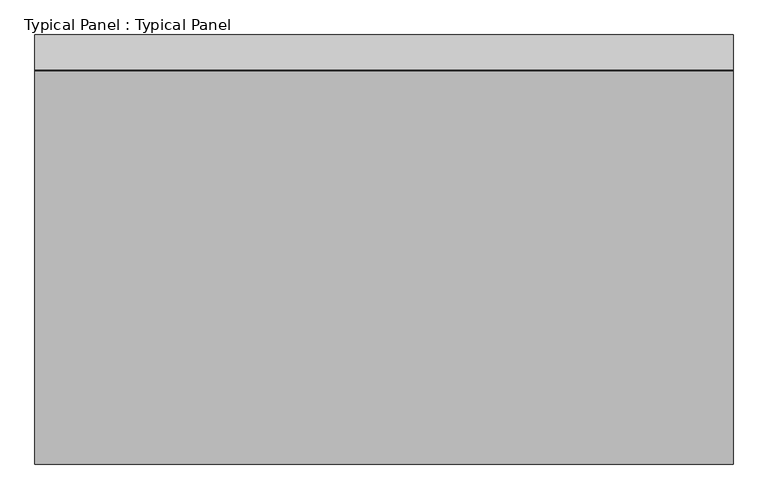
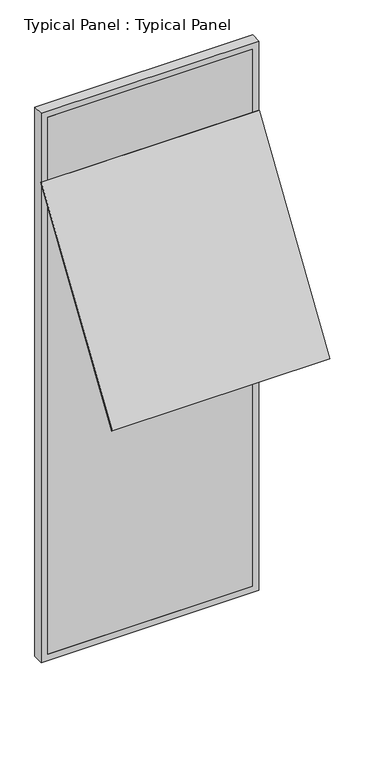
"""IFC4 building model written with IfcOpenShell, lengths in millimetres: plate geometry, Typical Panel : Typical Panel."""

import ifcopenshell
import ifcopenshell.guid

model = None  # the IFC model being written
_history = None  # IfcOwnerHistory: only IFC2X3 demands one
_inside = {}  # id of a spatial element -> (the spatial element, [elements in it])
_under = {}  # id of a project, library or spatial element -> (it, [spatial elements below it])
_declared = {}  # id of a project -> (the project, [libraries it declares])
_typed = {}  # id of a type object -> (the type object, [elements of that type])
_made_of = {}  # id of a material, layer set ... -> (it, [elements and type objects made of it])


def new_model(schema):
    """Start an empty IFC model of exactly this schema.

    Asked for "IFC4X3", IfcOpenShell would pick the latest addendum, in which some entities
    have other attributes; the version numbers below select the first issue.
    IFC2X3 requires an IfcOwnerHistory on every rooted entity: one is made here for all.
    """
    global model, _history
    if schema == "IFC4X3":
        model = ifcopenshell.file(schema_version=(4, 3, 0, 0))
    else:
        model = ifcopenshell.file(schema=schema)
    _inside.clear()
    _under.clear()
    _declared.clear()
    _typed.clear()
    _made_of.clear()
    _history = None
    if model.schema == "IFC2X3":
        org = make("IfcOrganization", Name="unknown")
        user = make(
            "IfcPersonAndOrganization",
            ThePerson=make("IfcPerson", FamilyName="unknown"),
            TheOrganization=org,
        )
        app = make(
            "IfcApplication",
            ApplicationDeveloper=org,
            Version="unknown",
            ApplicationFullName="unknown",
            ApplicationIdentifier="unknown",
        )
        _history = make(
            "IfcOwnerHistory",
            OwningUser=user,
            OwningApplication=app,
            ChangeAction="ADDED",
            CreationDate=0,
        )
    return model


def make(cls, **values):
    """One entity of the class cls with the attributes given. An attribute that is None is left unset."""
    return model.create_entity(
        cls, **{name: value for name, value in values.items() if value is not None}
    )


def rooted(cls, **values):
    """An entity with a GlobalId (a new one), such as an element, a storey or a relation."""
    return make(cls, GlobalId=ifcopenshell.guid.new(), OwnerHistory=_history, **values)


def si_unit(unit_type, name, prefix=None):
    """IfcSIUnit, for example si_unit("LENGTHUNIT", "METRE", prefix="MILLI")."""
    return make("IfcSIUnit", UnitType=unit_type, Prefix=prefix, Name=name)


def assignment(units):
    """IfcUnitAssignment: the units of a project."""
    return None if units is None else make("IfcUnitAssignment", Units=units)


def point(xyz):
    """IfcCartesianPoint."""
    return None if xyz is None else make("IfcCartesianPoint", Coordinates=xyz)


def direction(xyz):
    """IfcDirection."""
    return None if xyz is None else make("IfcDirection", DirectionRatios=xyz)


def frame(location, z_axis=None, x_axis=None):
    """IfcAxis2Placement3D, a coordinate frame: its origin and axes. An axis left out is left unset."""
    return make(
        "IfcAxis2Placement3D",
        Location=point(location),
        Axis=direction(z_axis),
        RefDirection=direction(x_axis),
    )


def origin():
    """The frame at (0, 0, 0) with its axes left unset."""
    return frame((0.0, 0.0, 0.0))


def place(relative_to, where):
    """IfcLocalPlacement: puts the frame where relative to a parent placement (None: the world)."""
    return make(
        "IfcLocalPlacement", PlacementRelTo=relative_to, RelativePlacement=where
    )


def context(
    kind, dimensions, precision=None, world=None, true_north=None, identifier=None
):
    """IfcGeometricRepresentationContext, for example the 3D "Model" context."""
    return make(
        "IfcGeometricRepresentationContext",
        ContextIdentifier=identifier,
        ContextType=kind,
        CoordinateSpaceDimension=dimensions,
        Precision=precision,
        WorldCoordinateSystem=world,
        TrueNorth=true_north,
    )


def project(units=None, contexts=None):
    """IfcProject with its units and contexts."""
    return rooted(
        "IfcProject",
        Name="project",
        RepresentationContexts=contexts,
        UnitsInContext=assignment(units),
    )


def spatial(cls, under=None, at=None, **own):
    """A site, building, storey or space (cls), placed at a placement, below another one or the project."""
    s = rooted(cls, ObjectPlacement=at, **own)
    if under is not None:
        _under.setdefault(under.id(), (under, []))[1].append(s)
    return s


def polyline(points):
    """IfcPolyline through the points."""
    return make("IfcPolyline", Points=[point(p) for p in points])


def outline(outer, holes=None, kind="AREA"):
    """IfcArbitraryClosedProfileDef: a profile drawn as a closed curve; with holes, ...WithVoids."""
    if holes is None:
        return make("IfcArbitraryClosedProfileDef", ProfileType=kind, OuterCurve=outer)
    return make(
        "IfcArbitraryProfileDefWithVoids",
        ProfileType=kind,
        OuterCurve=outer,
        InnerCurves=holes,
    )


def extrude(swept, where, along, depth):
    """IfcExtrudedAreaSolid: the profile swept, set in the frame where, extruded along a direction by depth."""
    return make(
        "IfcExtrudedAreaSolid",
        SweptArea=swept,
        Position=where,
        ExtrudedDirection=direction(along),
        Depth=depth,
    )


def shape(context_of_items, identifier, shape_type, items):
    """IfcShapeRepresentation: the items that make up one representation, for example the "Body"."""
    return make(
        "IfcShapeRepresentation",
        ContextOfItems=context_of_items,
        RepresentationIdentifier=identifier,
        RepresentationType=shape_type,
        Items=items,
    )


def source(mapping_origin, context_of_items, identifier, shape_type, items):
    """IfcRepresentationMap: a shape defined once, which mapped items show again and again."""
    return make(
        "IfcRepresentationMap",
        MappingOrigin=mapping_origin,
        MappedRepresentation=shape(context_of_items, identifier, shape_type, items),
    )


def transform(
    local_origin,
    x_axis=None,
    y_axis=None,
    z_axis=None,
    scale=None,
    scale2=None,
    scale3=None,
    uniform=True,
):
    """IfcCartesianTransformationOperator3D, or its non-uniform kind. x_axis, y_axis, z_axis: its Axis1, 2, 3."""
    if uniform:
        return make(
            "IfcCartesianTransformationOperator3D",
            Axis1=direction(x_axis),
            Axis2=direction(y_axis),
            LocalOrigin=point(local_origin),
            Scale=scale,
            Axis3=direction(z_axis),
        )
    return make(
        "IfcCartesianTransformationOperator3DnonUniform",
        Axis1=direction(x_axis),
        Axis2=direction(y_axis),
        LocalOrigin=point(local_origin),
        Scale=scale,
        Axis3=direction(z_axis),
        Scale2=scale2,
        Scale3=scale3,
    )


def mapped(mapping_source, mapping_target):
    """IfcMappedItem: shows the shape of a source again, moved by a transform."""
    return make(
        "IfcMappedItem", MappingSource=mapping_source, MappingTarget=mapping_target
    )


def made_of(thing, what):
    """Note that an element or type object is made of a material, layer set ...; save() writes the relation."""
    if what is not None:
        _made_of.setdefault(what.id(), (what, []))[1].append(thing)
    return thing


def element(
    cls,
    number,
    at=None,
    inside=None,
    cuts=None,
    type_object=None,
    material=None,
    context=None,
    identifier="Body",
    shape_type=None,
    held_by="IfcProductDefinitionShape",
    body=None,
    shapes=None,
    **own,
):
    """One element of the class cls, such as IfcWall. Its Tag is "e" and its number.

    at: its placement. inside: the storey or other place that contains it. cuts: it is an
    opening in that element (IfcRelVoidsElement). A single representation is given by context,
    identifier, shape_type and body (its items); several are given by shapes. held_by: the class
    of the entity that holds the representations. save() writes the other relations.
    """
    e = rooted(cls, Tag="e%d" % number, ObjectPlacement=at, **own)
    if body is not None:
        shapes = [shape(context, identifier, shape_type, body)]
    if shapes is not None:
        e.Representation = make(held_by, Representations=shapes)
    if inside is not None:
        _inside.setdefault(inside.id(), (inside, []))[1].append(e)
    if cuts is not None:
        rooted(
            "IfcRelVoidsElement", RelatingBuildingElement=cuts, RelatedOpeningElement=e
        )
    if type_object is not None:
        _typed.setdefault(type_object.id(), (type_object, []))[1].append(e)
    return made_of(e, material)


def aggregate(whole, parts):
    """IfcRelAggregates: a whole, such as a stair, and the parts it consists of."""
    return rooted("IfcRelAggregates", RelatingObject=whole, RelatedObjects=parts)


def save(model, path):
    """Write the relations noted so far, then the file.

    IfcRelAggregates (storeys below a building ...), IfcRelContainedInSpatialStructure (elements
    in a storey), IfcRelDefinesByType, IfcRelAssociatesMaterial and IfcRelDeclares: one each for
    every whole, place, type object, material and project.
    """
    for whole, parts in _under.values():
        aggregate(whole, parts)
    for where, things in _inside.values():
        rooted(
            "IfcRelContainedInSpatialStructure",
            RelatedElements=things,
            RelatingStructure=where,
        )
    for kind, things in _typed.values():
        rooted("IfcRelDefinesByType", RelatedObjects=things, RelatingType=kind)
    for what, things in _made_of.values():
        rooted("IfcRelAssociatesMaterial", RelatedObjects=things, RelatingMaterial=what)
    for by, libraries in _declared.values():
        rooted("IfcRelDeclares", RelatingContext=by, RelatedDefinitions=libraries)
    model.write(path)


def typical_panel_typical_panel_de002282(model_context):
    return source(origin(), model_context, "Body", "SweptSolid", [
        extrude(outline(polyline([(0.0, -10.0), (0.0, 0.0), (1500.0, 0.0), (1500.0, -10.0), (0.0, -10.0)])), frame((750.0, -849.1905043, 2200.0606197), z_axis=(0.0, 0.5446390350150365, 0.838670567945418), x_axis=(-1.0, 0.0, 0.0)), (0.0, 0.0, 1.0), 1550.0),
        extrude(outline(polyline([(0.0, -750.0), (0.0, 750.0), (4000.0, 750.0), (4000.0, -750.0), (0.0, -750.0)]), holes=[polyline([(45.0, 705.0), (45.0, -705.0), (3955.0, -705.0), (3955.0, 705.0), (45.0, 705.0)])]), frame((0.0, -1.5797986, 0.0), z_axis=(0.0, 1.0, 0.0), x_axis=(0.0, 0.0, 1.0)), (0.0, 0.0, 1.0), 75.0),
        extrude(outline(polyline([(705.0, -1.5797986), (-705.0, -1.5797986), (-705.0, 13.4202014), (705.0, 13.4202014), (705.0, -1.5797986)])), frame((0.0, 0.0, 45.0), z_axis=(0.0, 0.0, 1.0), x_axis=(1.0, 0.0, 0.0)), (0.0, 0.0, 1.0), 3910.0),
    ])


if __name__ == "__main__":
    model = new_model("IFC4")
    model_context = context("Model", 3, world=origin())
    ifc_project = project(units=[si_unit("LENGTHUNIT", "METRE", prefix="MILLI")], contexts=[model_context])
    site = spatial("IfcSite", under=ifc_project)
    building = spatial("IfcBuilding", under=site)
    placement = place(None, origin())
    typical_panel_typical_panel_shape = typical_panel_typical_panel_de002282(model_context)
    element("IfcPlate", 1, ObjectType="Typical Panel : Typical Panel", at=placement, inside=building, context=model_context, shape_type="MappedRepresentation", body=[
        mapped(typical_panel_typical_panel_shape, transform((0.0, 0.0, 0.0), x_axis=(1.0, 0.0, 0.0), y_axis=(0.0, 1.0, 0.0), z_axis=(0.0, 0.0, 1.0))),
    ])
    save(model, "model.ifc")
